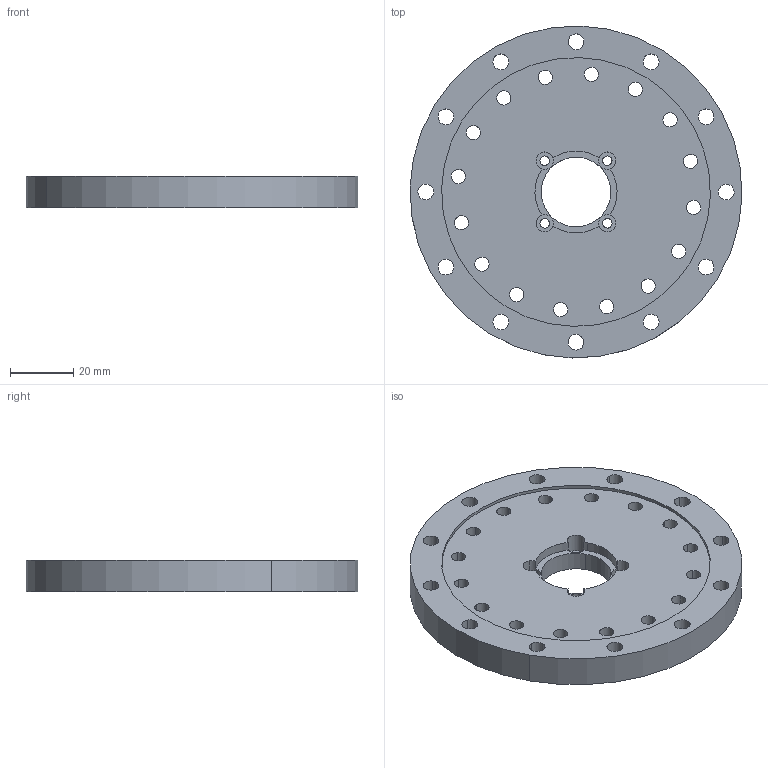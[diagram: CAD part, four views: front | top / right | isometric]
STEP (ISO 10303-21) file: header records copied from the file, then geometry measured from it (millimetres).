
FILE_DESCRIPTION(('CATIA V5 STEP Exchange'),'2;1');
FILE_NAME('C:\Users\Administrateur\Documents\Monture\Reducteur\Carter_reducteur_inf.stp','2023-02-21T01:21:01+00:00',('none'),('none'),'CATIA Version 5 Release 18 GA (IN-10)','CATIA V5 STEP AP203','none');
FILE_SCHEMA(('CONFIG_CONTROL_DESIGN'));
Length unit declared in the file: millimetre
Products named in the file (1): Carter_reducteur_inf
Bounding box: 104.97 x 104.97 x 10 mm (x, y, z)
Volume: 71813.8 mm3; surface area: 24062.7 mm2
Topology: 1 solids, 1 shells, 92 faces, 264 edges, 176 vertices
Faces by surface type: cylinder 84, plane 8
Entity records: 2887 total; most frequent: ORIENTED_EDGE 528, CARTESIAN_POINT 486, DIRECTION 354, EDGE_CURVE 264, AXIS2_PLACEMENT_3D 222, CIRCLE 176, VERTEX_POINT 176, EDGE_LOOP 160
